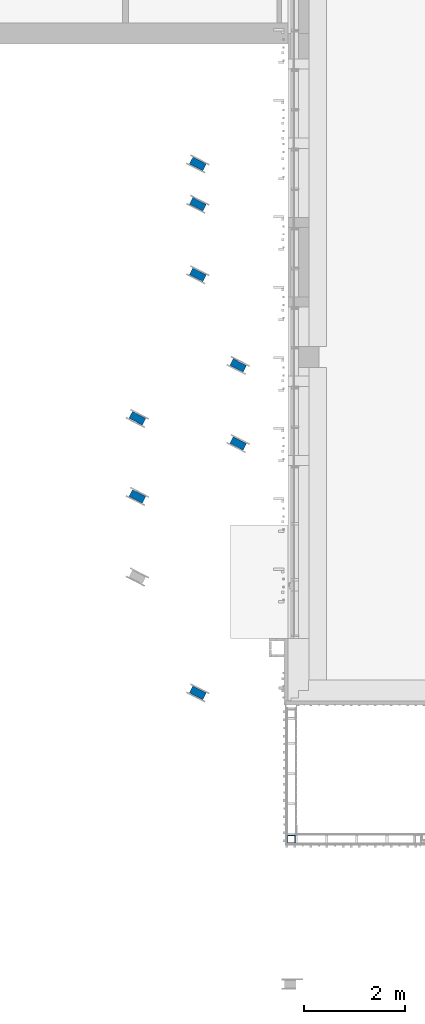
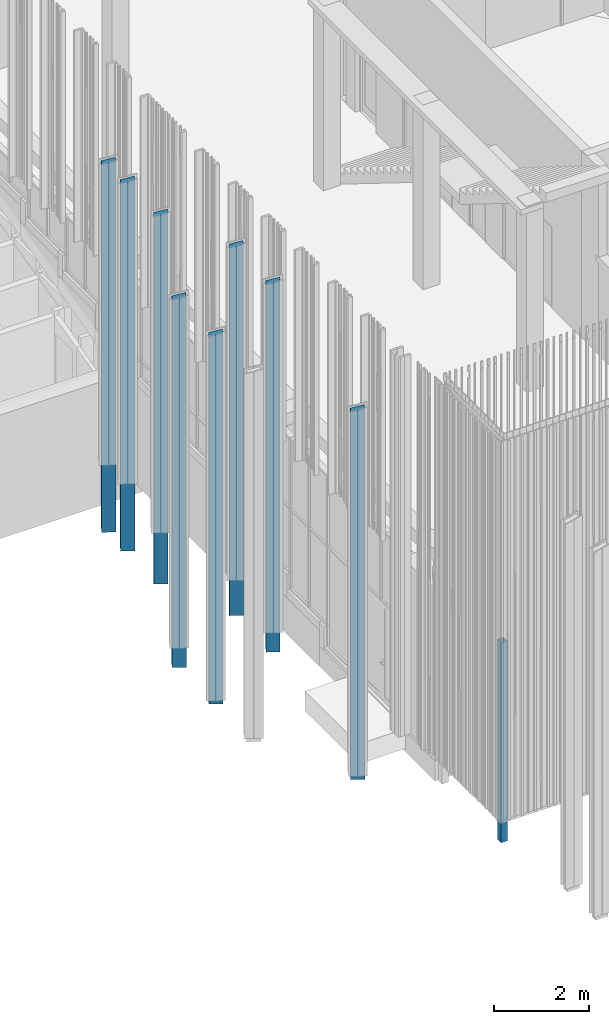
# One storey, part 2 of 390: 9 columns.
"""IFC2X3 building model written with IfcOpenShell, lengths in millimetres."""

from ifc_helpers import new_model, entity, si_unit, converted_unit, derived_unit, money_unit, direction, frame, origin_with_axes, place, context, subcontext, project, spatial, polyline, outline, extrude, faceted_brep, source, transform, mapped, material, type_object, element, save


model = new_model("IFC2X3")

# Units and contexts
model_context = context("Model", 3, precision=1e-05, world=origin_with_axes(), true_north=direction((0.0, 1.0)))
body_context = subcontext(model_context, "Body", "Model", "MODEL_VIEW")
ifc_project = project(units=[si_unit("LENGTHUNIT", "METRE", prefix="MILLI"), si_unit("AREAUNIT", "SQUARE_METRE"), si_unit("VOLUMEUNIT", "CUBIC_METRE"), converted_unit("PLANEANGLEUNIT", "DEGREE", entity("IfcPlaneAngleMeasure", 0.0174532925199), si_unit("PLANEANGLEUNIT", "RADIAN"), dimensions=[0, 0, 0, 0, 0, 0, 0]), si_unit("SOLIDANGLEUNIT", "STERADIAN"), money_unit("EUR"), converted_unit("TIMEUNIT", "Year", entity("IfcTimeMeasure", 31556926.0), si_unit("TIMEUNIT", "SECOND"), dimensions=[0, 0, 1, 0, 0, 0, 0]), si_unit("MASSUNIT", "GRAM", prefix="KILO"), si_unit("THERMODYNAMICTEMPERATUREUNIT", "DEGREE_CELSIUS"), si_unit("LUMINOUSINTENSITYUNIT", "LUMEN"), si_unit("ENERGYUNIT", "JOULE", prefix="MEGA"), derived_unit("THERMALCONDUCTANCEUNIT", [(si_unit("POWERUNIT", "WATT"), 1), (si_unit("LENGTHUNIT", "METRE"), -1), (si_unit("THERMODYNAMICTEMPERATUREUNIT", "KELVIN"), -1)]), derived_unit("SPECIFICHEATCAPACITYUNIT", [(si_unit("ENERGYUNIT", "JOULE"), 1), (si_unit("MASSUNIT", "GRAM", prefix="KILO"), -1), (si_unit("THERMODYNAMICTEMPERATUREUNIT", "KELVIN"), -1)]), derived_unit("MASSDENSITYUNIT", [(si_unit("MASSUNIT", "GRAM", prefix="KILO"), 1), (si_unit("VOLUMEUNIT", "CUBIC_METRE"), -1)])], contexts=[model_context])

# Site, building, storey
site_placement = place(None, origin_with_axes())
site = spatial("IfcSite", under=ifc_project, at=site_placement, Name="Site", CompositionType="ELEMENT")
building_placement = place(site_placement, origin_with_axes())
building = spatial("IfcBuilding", under=site, at=building_placement, Name="Building", CompositionType="ELEMENT")
storey_placement = place(building_placement, origin_with_axes())
storey = spatial("IfcBuildingStorey", under=building, at=storey_placement, Name="1 korrus", CompositionType="ELEMENT", Elevation=0.0)

# Columns
ifc_material = material(Name="Teras (musta värvi)")
column_type_1 = type_object("IfcColumnType", Name="Post", PredefinedType="NOTDEFINED")
column_placement = place(storey_placement, frame((122554.99996, 42599.0001117, -500.0), z_axis=(0.0, 0.0, 1.0), x_axis=(0.0, -1.0, 0.0)))
element("IfcColumn", 1, at=column_placement, inside=storey, type_object=column_type_1, material=ifc_material, Name="Post - teras - SHS:150x150x5", ObjectType="150x150x5", context=body_context, shape_type="SweptSolid", body=[
    extrude(outline(polyline([(-75.0, -75.0), (75.0, -75.0), (75.0, 75.0), (-75.0, 75.0), (-75.0, -75.0)]), holes=[polyline([(-70.0, -70.0), (-70.0, 70.0), (70.0, 70.0), (70.0, -70.0), (-70.0, -70.0)])]), origin_with_axes(), (0.0, 0.0, 1.0), 5150.00000001),
])
column_type_2 = type_object("IfcColumnType", Name="Päikesevarjestuspost", PredefinedType="NOTDEFINED")
shared_shape = source(origin_with_axes(), body_context, "Body", "Brep", [
    faceted_brep([(162202.026399, 119507.779568, 9545.0), (162202.026399, 119507.779568, 0.0), (162350.908322, 119489.499166, 0.0), (162350.908322, 119489.499166, 9545.0), (162238.587202, 119805.543413, 9464.61524227), (162238.587202, 119805.543413, 0.0), (162387.469125, 119787.263012, 0.0), (162387.469125, 119787.263012, 9464.61524227)], [[[0, 1, 2, 3]], [[1, 0, 4, 5]], [[1, 5, 6, 2]], [[3, 2, 6, 7]], [[4, 0, 3, 7]], [[5, 4, 7, 6]]]),
])
for number, where, z_axis, x_axis in (
    (2, (177623.819958, -147927.598652, 0.0), (0.0, 0.0, 1.0), (0.342020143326, 0.939692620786, 0.0)),
    (3, (176423.819958, -144027.598652, 0.0), (0.0, 0.0, 1.0), (0.342020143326, 0.939692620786, 0.0)),
    (4, (176423.819958, -142477.598652, 0.0), (0.0, 0.0, 1.0), (0.342020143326, 0.939692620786, 0.0)),
    (5, (177623.819958, -137427.598652, 0.0), (0.0, 0.0, 1.0), (0.342020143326, 0.939692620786, 0.0)),
    (6, (177623.819958, -138227.598652, 0.0), (0.0, 0.0, 1.0), (0.342020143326, 0.939692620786, 0.0)),
    (7, (177623.819958, -139627.598652, 0.0), (0.0, 0.0, 1.0), (0.342020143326, 0.939692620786, 0.0)),
    (8, (178423.819958, -141427.598652, 0.0), (0.0, 0.0, 1.0), (0.342020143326, 0.939692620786, 0.0)),
    (9, (178423.819958, -142977.598652, 0.0), (0.0, 0.0, 1.0), (0.342020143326, 0.939692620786, 0.0)),
):
    element("IfcColumn", number, at=place(storey_placement, frame(where, z_axis=z_axis, x_axis=x_axis)), inside=storey, type_object=column_type_2, material=ifc_material, Name="Teras (musta värvi)", ObjectType="Teras (musta värvi)", context=body_context, shape_type="MappedRepresentation", body=[
        mapped(shared_shape, transform((0.0, 0.0, 0.0))),
    ])

save(model, "model.ifc")
